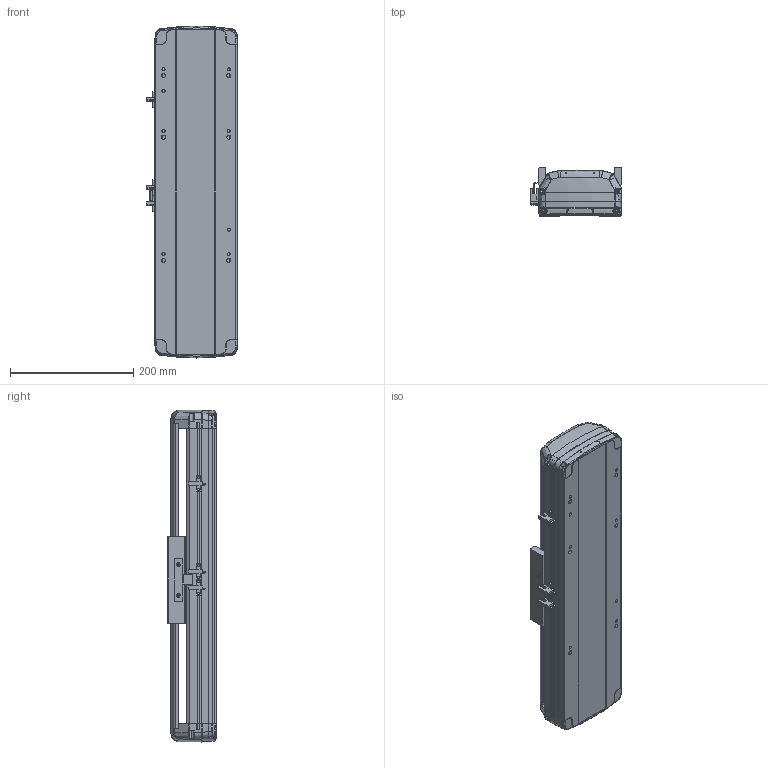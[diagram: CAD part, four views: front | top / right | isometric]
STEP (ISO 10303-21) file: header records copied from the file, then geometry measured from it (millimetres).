
FILE_DESCRIPTION (( 'STEP AP214' ), '1' );
FILE_NAME ('RTH14-XX-150-B-M20-C4.STEP', '2025-10-25T02:18:00', ( 'Microsoft' ), ( 'Microsoft' ), 'SwSTEP 2.0', 'SolidWorks 2018', '' );
FILE_SCHEMA (( 'AUTOMOTIVE_DESIGN' ));
Length unit declared in the file: millimetre
Products named in the file (7): N_RTH14-B-011P菁釱^RTH14-XX-XX-B-M20-C4; RTH14-XX-150-B-M20-C4; N_RTH14-GY-001P^RTH14-XX-XX-B-M20-C4; N_OMRON EE-SX672 传感器^RTH14-XX-XX-B-M20-C4; N_RTH14-B-007奻裔^RTH14-XX-XX-B-M20-C4; N_RTH13-L-012感应片（外置）^RTH14-XX-XX-B-M20-C4; N_RTH14-R-004-SFSR16賑釱^RTH14-XX-XX-B-M20-C4
Assembly tree (9 placements, depth 2):
  RTH14-XX-150-B-M20-C4
    N_RTH14-B-011P菁釱^RTH14-XX-XX-B-M20-C4
    N_RTH14-B-007奻裔^RTH14-XX-XX-B-M20-C4
    N_RTH13-L-012感应片（外置）^RTH14-XX-XX-B-M20-C4
    N_OMRON EE-SX672 传感器^RTH14-XX-XX-B-M20-C4  x3
    N_RTH14-R-004-SFSR16賑釱^RTH14-XX-XX-B-M20-C4
    N_RTH14-GY-001P^RTH14-XX-XX-B-M20-C4  x2
Bounding box: 148.5 x 78.03 x 538.99 mm (x, y, z)
Volume: 2403476 mm3; surface area: 571384.9 mm2
Topology: 9 solids, 9 shells, 1882 faces, 5296 edges, 3446 vertices
Faces by surface type: plane 971, bspline 450, cylinder 397, cone 56, torus 8
Entity records: 45288 total; most frequent: CARTESIAN_POINT 20538, ORIENTED_EDGE 5608, DIRECTION 4047, EDGE_CURVE 2804, VERTEX_POINT 1832, VECTOR 1595, LINE 1595, AXIS2_PLACEMENT_3D 1226
